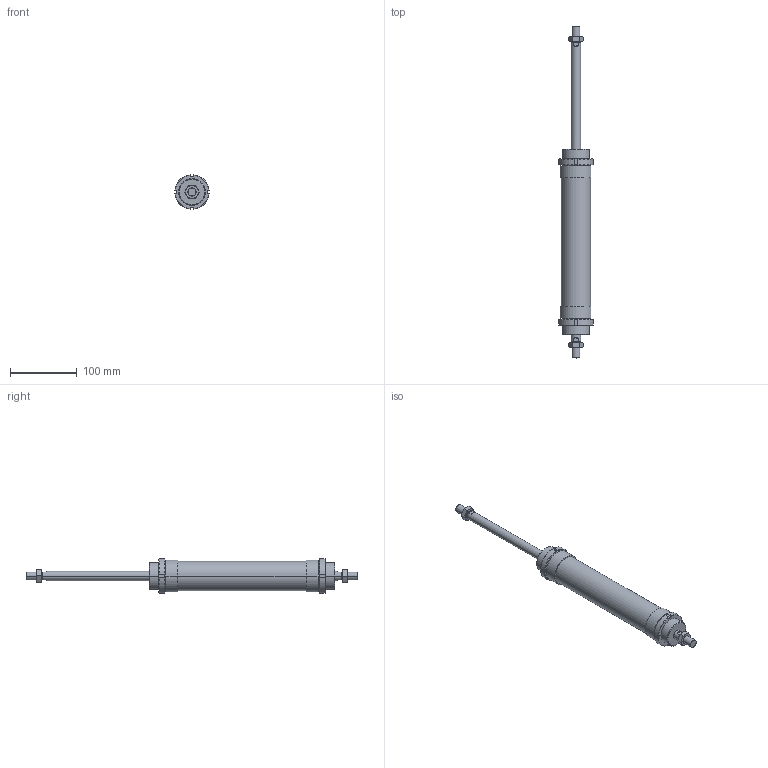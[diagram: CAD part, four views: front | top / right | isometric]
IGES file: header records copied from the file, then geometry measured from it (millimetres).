
Global section: file name: No Iges File Name specified; native system: AutoDesk Inventor R6.0; preprocessor: AutoDesk Inventor Iges Exporter R6.0; author: No Author specified; organization: No Organization specified; date: 20030403.072827; units: millimetre
Bounding box: 51.76 x 499 x 51.76 mm (x, y, z)
Volume: 468725.4 mm3; surface area: 88044 mm2
Topology: 6 solids, 6 shells, 182 faces, 424 edges, 264 vertices
Faces by surface type: plane 66, cone 52, bspline 30, cylinder 28, revolution 6
